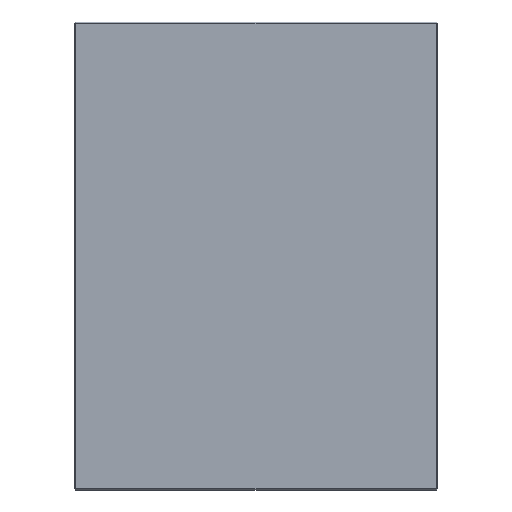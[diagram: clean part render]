
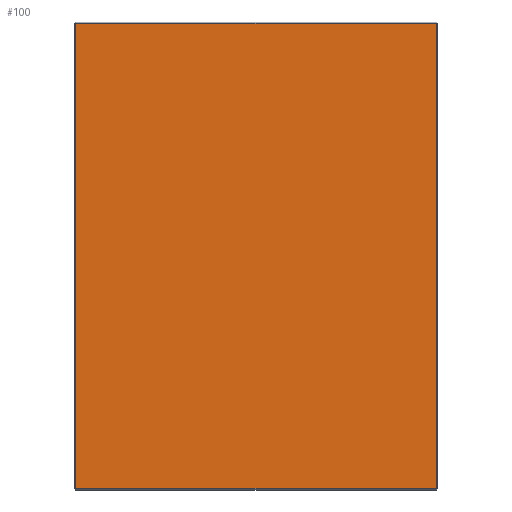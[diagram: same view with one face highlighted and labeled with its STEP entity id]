
A CAD part, front view. The second image highlights one B-rep face of the part: STEP entity #100.
In plain terms, the highlighted planar face has unit normal (0, -1, 0).
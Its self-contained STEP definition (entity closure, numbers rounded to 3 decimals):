
#5 = CARTESIAN_POINT ( 'NONE',  ( -173., 0., 222. ) ) ;
#11 = VECTOR ( 'NONE', #298, 1000. ) ;
#48 = LINE ( 'NONE', #488, #11 ) ;
#64 = CARTESIAN_POINT ( 'NONE',  ( 172., 0., -222. ) ) ;
#78 = LINE ( 'NONE', #5, #164 ) ;
#100 = ADVANCED_FACE ( 'NONE', ( #454 ), #241, .T. ) ;
#158 = EDGE_CURVE ( 'NONE', #194, #526, #48, .T. ) ;
#159 = VERTEX_POINT ( 'NONE', #235 ) ;
#164 = VECTOR ( 'NONE', #199, 1000. ) ;
#191 = LINE ( 'NONE', #230, #274 ) ;
#194 = VERTEX_POINT ( 'NONE', #327 ) ;
#199 = DIRECTION ( 'NONE',  ( -1., 0., 0. ) ) ;
#230 = CARTESIAN_POINT ( 'NONE',  ( -172., 0., -223. ) ) ;
#235 = CARTESIAN_POINT ( 'NONE',  ( 172., 0., 222. ) ) ;
#238 = CARTESIAN_POINT ( 'NONE',  ( 172., 0., 223. ) ) ;
#241 = PLANE ( 'NONE',  #417 ) ;
#242 = ORIENTED_EDGE ( 'NONE', *, *, #392, .T. ) ;
#254 = EDGE_CURVE ( 'NONE', #416, #194, #191, .T. ) ;
#273 = DIRECTION ( 'NONE',  ( 0., 0., 1. ) ) ;
#274 = VECTOR ( 'NONE', #587, 1000. ) ;
#281 = EDGE_LOOP ( 'NONE', ( #400, #430, #242, #556 ) ) ;
#298 = DIRECTION ( 'NONE',  ( 1., 0., 0. ) ) ;
#311 = DIRECTION ( 'NONE',  ( 0., 0., -1. ) ) ;
#327 = CARTESIAN_POINT ( 'NONE',  ( -172., 0., -222. ) ) ;
#366 = DIRECTION ( 'NONE',  ( 0., -1., 0. ) ) ;
#374 = LINE ( 'NONE', #238, #474 ) ;
#379 = CARTESIAN_POINT ( 'NONE',  ( -172., 0., 222. ) ) ;
#392 = EDGE_CURVE ( 'NONE', #526, #159, #374, .T. ) ;
#400 = ORIENTED_EDGE ( 'NONE', *, *, #254, .T. ) ;
#405 = CARTESIAN_POINT ( 'NONE',  ( 0., 0., 0. ) ) ;
#416 = VERTEX_POINT ( 'NONE', #379 ) ;
#417 = AXIS2_PLACEMENT_3D ( 'NONE', #405, #366, #311 ) ;
#430 = ORIENTED_EDGE ( 'NONE', *, *, #158, .T. ) ;
#454 = FACE_OUTER_BOUND ( 'NONE', #281, .T. ) ;
#474 = VECTOR ( 'NONE', #273, 1000. ) ;
#488 = CARTESIAN_POINT ( 'NONE',  ( 173., 0., -222. ) ) ;
#526 = VERTEX_POINT ( 'NONE', #64 ) ;
#556 = ORIENTED_EDGE ( 'NONE', *, *, #562, .T. ) ;
#562 = EDGE_CURVE ( 'NONE', #159, #416, #78, .T. ) ;
#587 = DIRECTION ( 'NONE',  ( 0., 0., -1. ) ) ;
